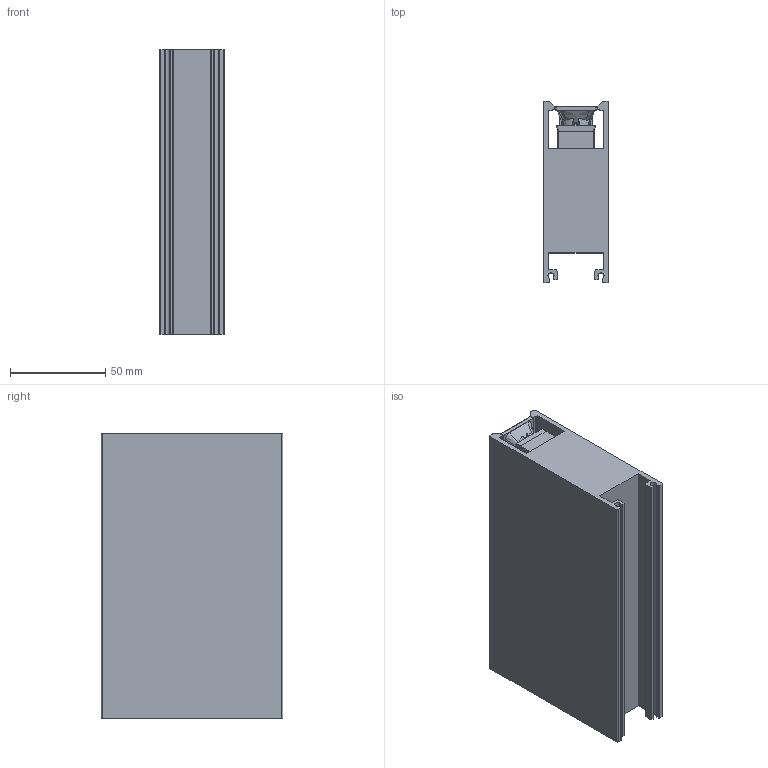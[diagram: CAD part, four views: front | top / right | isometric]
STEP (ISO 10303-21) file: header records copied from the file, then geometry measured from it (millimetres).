
FILE_DESCRIPTION(/* description */ (''),/* implementation_level */ '2;1');
FILE_NAME(/* name */ 'Evelo S Straight Optics Assembly.stp',/* time_stamp */ '2024-09-20T17:27:41+10:00',/* author */ ('Mlight Projects'),/* organization */ (''),/* preprocessor_version */ 'ST-DEVELOPER v20',/* originating_system */ 'Autodesk Inventor 2024',/* authorisation */ '');
FILE_SCHEMA (('AUTOMOTIVE_DESIGN { 1 0 10303 214 3 1 1 }'));
Products named in the file (3): Evelo S Straight Optics Assembly; Body R200; Optics Straight
Assembly tree (2 placements, depth 2):
  Evelo S Straight Optics Assembly
    Body R200
    Optics Straight
Bounding box: 33.6 x 95.1 x 149 mm (x, y, z)
Volume: 343860.2 mm3; surface area: 92694.9 mm2
Topology: 4 solids, 4 shells, 1122 faces, 3139 edges, 2056 vertices
Faces by surface type: bspline 452, plane 366, cylinder 154, cone 141, torus 9
Full cylindrical faces by diameter (mm): 3.5 x3, 5.6 x6, 10.5 x3, 13.374 x6
Entity records: 53753 total; most frequent: CARTESIAN_POINT 27764, ORIENTED_EDGE 6278, DIRECTION 4358, EDGE_CURVE 3139, VERTEX_POINT 2056, AXIS2_PLACEMENT_3D 1764, B_SPLINE_CURVE_WITH_KNOTS 1220, EDGE_LOOP 1211
